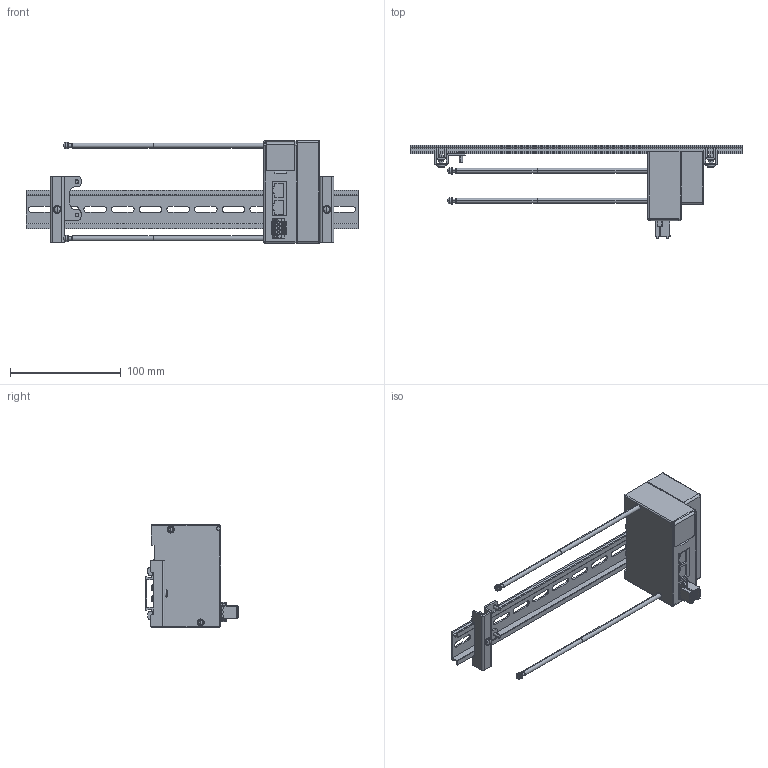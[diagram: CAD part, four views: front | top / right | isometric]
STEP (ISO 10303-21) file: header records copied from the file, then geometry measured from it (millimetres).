
FILE_DESCRIPTION( (''), '2;1');
FILE_NAME ('YS8EM3-8-DR.stp','2022-12-01T14:45:57',(''),(''),'spGate 12.6.6','','');
FILE_SCHEMA (('AUTOMOTIVE_DESIGN'));
Length unit declared in the file: millimetre
Products named in the file (4): Assembly; YS8EM3-8-DR-prt0; YS8EM3-8-DR-prt1; YS8EM3-8-DR-prt2
Assembly tree (4 placements, depth 2):
  Assembly
    YS8EM3-8-DR-prt0
    YS8EM3-8-DR-prt1
    YS8EM3-8-DR-prt2  x2
Bounding box: 300 x 84.4 x 93 mm (x, y, z)
Volume: 290774.1 mm3; surface area: 78495.2 mm2
Topology: 4 solids, 4 shells, 1051 faces, 2763 edges, 1773 vertices
Faces by surface type: plane 605, cylinder 340, bspline 90, sphere 16
Entity records: 48356 total; most frequent: CARTESIAN_POINT 6557, ORIENTED_EDGE 4804, DIRECTION 4546, COLOUR_RGB 3325, PRESENTATION_STYLE_ASSIGNMENT 3325, STYLED_ITEM 3325, EDGE_CURVE 2402, DRAUGHTING_PRE_DEFINED_CURVE_FONT 2402
